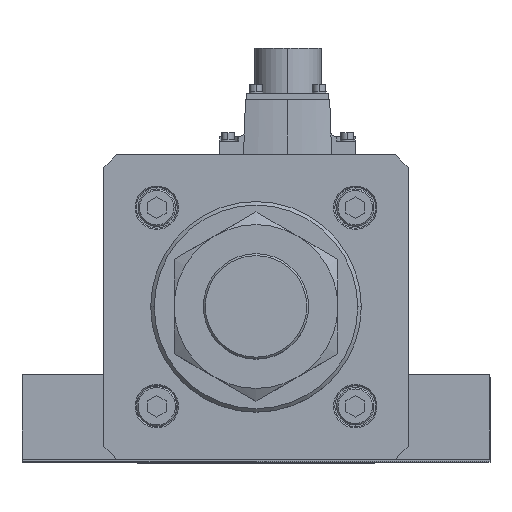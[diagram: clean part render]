
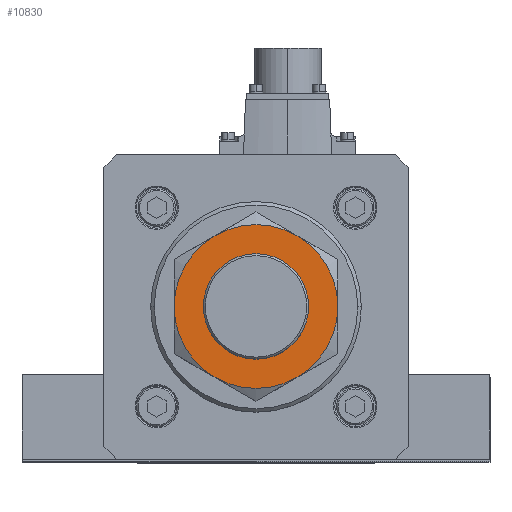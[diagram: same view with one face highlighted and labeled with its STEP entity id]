
A CAD part, top view. The second image highlights one B-rep face of the part: STEP entity #10830.
In plain terms, the highlighted planar face has unit normal (0, 0, 1).
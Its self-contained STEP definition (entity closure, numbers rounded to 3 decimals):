
#953 = DIRECTION ( 'NONE',  ( -1., 0., 0. ) ) ;
#1959 = DIRECTION ( 'NONE',  ( 0., 0., 1. ) ) ;
#1977 = VERTEX_POINT ( 'NONE', #6687 ) ;
#2208 = DIRECTION ( 'NONE',  ( 1., 0., 0. ) ) ;
#2474 = PLANE ( 'NONE',  #7869 ) ;
#2560 = CARTESIAN_POINT ( 'NONE',  ( 0., 0., 27. ) ) ;
#2612 = ORIENTED_EDGE ( 'NONE', *, *, #36339, .F. ) ;
#3321 = DIRECTION ( 'NONE',  ( 0., 0., 1. ) ) ;
#4247 = VERTEX_POINT ( 'NONE', #23102 ) ;
#4440 = ORIENTED_EDGE ( 'NONE', *, *, #15062, .F. ) ;
#4509 = CARTESIAN_POINT ( 'NONE',  ( 0., 0., 27. ) ) ;
#4942 = CARTESIAN_POINT ( 'NONE',  ( 22.5, 0., 27. ) ) ;
#5773 = DIRECTION ( 'NONE',  ( 0., 0., -1. ) ) ;
#5850 = EDGE_CURVE ( 'NONE', #26313, #34373, #17389, .T. ) ;
#6186 = ORIENTED_EDGE ( 'NONE', *, *, #22775, .F. ) ;
#6269 = CARTESIAN_POINT ( 'NONE',  ( 0., 0., 27. ) ) ;
#6586 = CIRCLE ( 'NONE', #11704, 22.5 ) ;
#6687 = CARTESIAN_POINT ( 'NONE',  ( 17.5, 30.311, 27. ) ) ;
#6691 = VERTEX_POINT ( 'NONE', #12416 ) ;
#7055 = ORIENTED_EDGE ( 'NONE', *, *, #13325, .F. ) ;
#7869 = AXIS2_PLACEMENT_3D ( 'NONE', #31643, #1959, #2208 ) ;
#9849 = ORIENTED_EDGE ( 'NONE', *, *, #31264, .F. ) ;
#10386 = FACE_OUTER_BOUND ( 'NONE', #34491, .T. ) ;
#10830 = ADVANCED_FACE ( 'NONE', ( #10386, #23778 ), #2474, .T. ) ;
#11704 = AXIS2_PLACEMENT_3D ( 'NONE', #24032, #15616, #36279 ) ;
#11885 = CARTESIAN_POINT ( 'NONE',  ( 0., 0., 27. ) ) ;
#11901 = ORIENTED_EDGE ( 'NONE', *, *, #5850, .F. ) ;
#12416 = CARTESIAN_POINT ( 'NONE',  ( -22.5, 0., 27. ) ) ;
#12744 = EDGE_CURVE ( 'NONE', #4247, #1977, #20015, .T. ) ;
#13325 = EDGE_CURVE ( 'NONE', #6691, #18341, #36141, .T. ) ;
#13467 = AXIS2_PLACEMENT_3D ( 'NONE', #11885, #32319, #18077 ) ;
#13505 = DIRECTION ( 'NONE',  ( 0., 0., -1. ) ) ;
#15062 = EDGE_CURVE ( 'NONE', #35438, #4247, #36005, .T. ) ;
#15120 = CIRCLE ( 'NONE', #17419, 35. ) ;
#15320 = AXIS2_PLACEMENT_3D ( 'NONE', #4509, #13505, #31099 ) ;
#15616 = DIRECTION ( 'NONE',  ( 0., 0., 1. ) ) ;
#17389 = CIRCLE ( 'NONE', #27798, 35. ) ;
#17419 = AXIS2_PLACEMENT_3D ( 'NONE', #2560, #5773, #29527 ) ;
#17618 = CARTESIAN_POINT ( 'NONE',  ( -17.5, -30.311, 27. ) ) ;
#18077 = DIRECTION ( 'NONE',  ( -1., 0., 0. ) ) ;
#18341 = VERTEX_POINT ( 'NONE', #4942 ) ;
#18622 = EDGE_LOOP ( 'NONE', ( #7055, #6186 ) ) ;
#20015 = CIRCLE ( 'NONE', #15320, 35. ) ;
#20523 = CARTESIAN_POINT ( 'NONE',  ( 35., 0., 27. ) ) ;
#22305 = CIRCLE ( 'NONE', #13467, 35. ) ;
#22325 = AXIS2_PLACEMENT_3D ( 'NONE', #36694, #27805, #953 ) ;
#22580 = EDGE_CURVE ( 'NONE', #23657, #35438, #22305, .T. ) ;
#22775 = EDGE_CURVE ( 'NONE', #18341, #6691, #6586, .T. ) ;
#22793 = DIRECTION ( 'NONE',  ( 0., 0., -1. ) ) ;
#23102 = CARTESIAN_POINT ( 'NONE',  ( -17.5, 30.311, 27. ) ) ;
#23615 = CIRCLE ( 'NONE', #32222, 35. ) ;
#23657 = VERTEX_POINT ( 'NONE', #17618 ) ;
#23778 = FACE_BOUND ( 'NONE', #18622, .T. ) ;
#24032 = CARTESIAN_POINT ( 'NONE',  ( 0., 0., 27. ) ) ;
#26195 = CARTESIAN_POINT ( 'NONE',  ( 0., 0., 27. ) ) ;
#26288 = DIRECTION ( 'NONE',  ( -1., 0., 0. ) ) ;
#26313 = VERTEX_POINT ( 'NONE', #20523 ) ;
#27380 = CARTESIAN_POINT ( 'NONE',  ( 17.5, -30.311, 27. ) ) ;
#27651 = CARTESIAN_POINT ( 'NONE',  ( -35., 0., 27. ) ) ;
#27798 = AXIS2_PLACEMENT_3D ( 'NONE', #26195, #34983, #32141 ) ;
#27805 = DIRECTION ( 'NONE',  ( 0., 0., -1. ) ) ;
#29527 = DIRECTION ( 'NONE',  ( -1., 0., 0. ) ) ;
#30280 = DIRECTION ( 'NONE',  ( 1., 0., 0. ) ) ;
#31099 = DIRECTION ( 'NONE',  ( -1., 0., 0. ) ) ;
#31264 = EDGE_CURVE ( 'NONE', #1977, #26313, #15120, .T. ) ;
#31643 = CARTESIAN_POINT ( 'NONE',  ( 0., 0., 27. ) ) ;
#32141 = DIRECTION ( 'NONE',  ( -1., 0., 0. ) ) ;
#32222 = AXIS2_PLACEMENT_3D ( 'NONE', #34937, #22793, #26288 ) ;
#32319 = DIRECTION ( 'NONE',  ( 0., 0., -1. ) ) ;
#34373 = VERTEX_POINT ( 'NONE', #27380 ) ;
#34491 = EDGE_LOOP ( 'NONE', ( #11901, #9849, #36161, #4440, #35956, #2612 ) ) ;
#34937 = CARTESIAN_POINT ( 'NONE',  ( 0., 0., 27. ) ) ;
#34983 = DIRECTION ( 'NONE',  ( 0., 0., -1. ) ) ;
#35438 = VERTEX_POINT ( 'NONE', #27651 ) ;
#35956 = ORIENTED_EDGE ( 'NONE', *, *, #22580, .F. ) ;
#36005 = CIRCLE ( 'NONE', #22325, 35. ) ;
#36141 = CIRCLE ( 'NONE', #38165, 22.5 ) ;
#36161 = ORIENTED_EDGE ( 'NONE', *, *, #12744, .F. ) ;
#36279 = DIRECTION ( 'NONE',  ( 1., 0., 0. ) ) ;
#36339 = EDGE_CURVE ( 'NONE', #34373, #23657, #23615, .T. ) ;
#36694 = CARTESIAN_POINT ( 'NONE',  ( 0., 0., 27. ) ) ;
#38165 = AXIS2_PLACEMENT_3D ( 'NONE', #6269, #3321, #30280 ) ;
